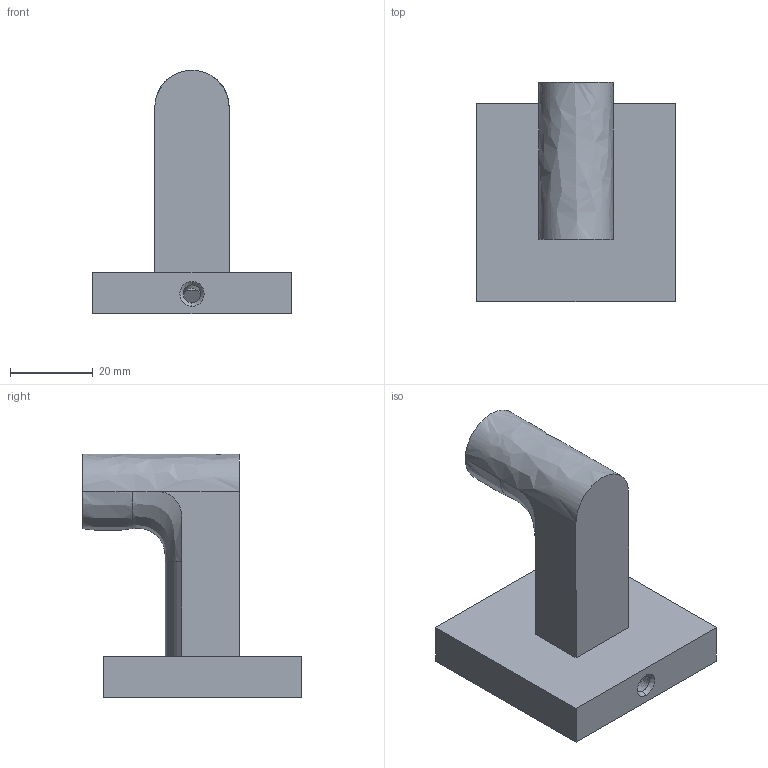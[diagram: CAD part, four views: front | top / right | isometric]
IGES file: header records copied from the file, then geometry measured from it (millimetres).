
Global section: file name: 8e673894-3a49-4fd9-9067-7f12dd9b63c0; native system: unknown; preprocessor: unknown; author: unknown; organization: unknown; date: 20200108.104649; units: millimetre
Bounding box: 48 x 53 x 59 mm (x, y, z)
Volume: 31950.8 mm3; surface area: 17152.2 mm2
Topology: 5 solids, 5 shells, 128 faces, 355 edges, 240 vertices
Faces by surface type: bspline 128
